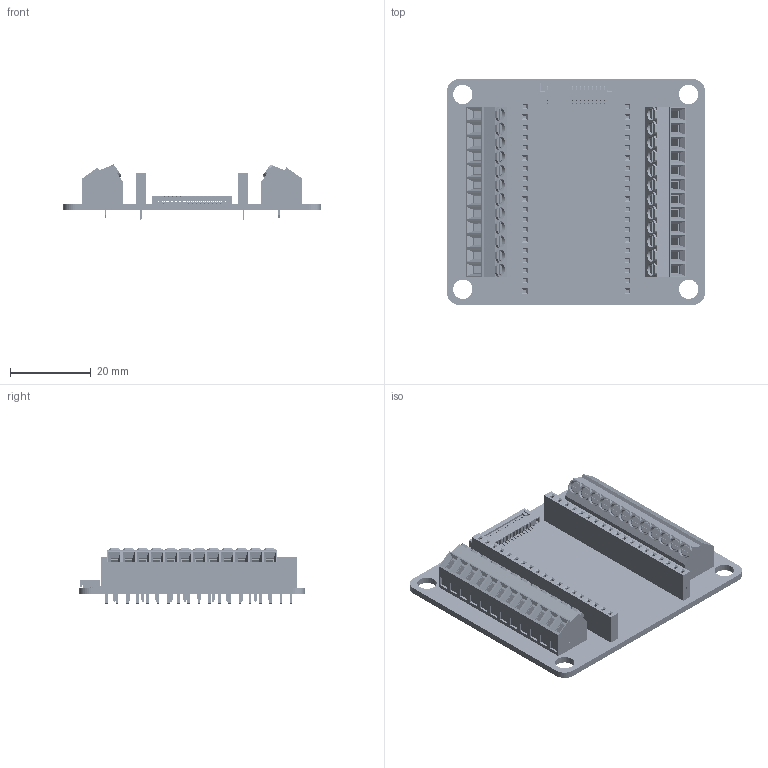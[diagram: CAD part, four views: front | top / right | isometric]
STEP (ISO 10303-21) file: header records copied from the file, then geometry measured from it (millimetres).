
FILE_DESCRIPTION(('Designed by EasyEDA Pro'),'2;1');
FILE_NAME('Open CASCADE Shape Model','2026-09-15T20:38:14',('Author'),( 'Open CASCADE'),'Open CASCADE STEP processor 7.8','Open CASCADE 7.8' ,'Unknown');
FILE_SCHEMA(('AUTOMOTIVE_DESIGN { 1 0 10303 214 1 1 1 1 }'));
Length unit declared in the file: millimetre
Products named in the file (514): EasyEDA PCB Model~jsJH; Board~jsJH; TopCopper~jsJH; BottomCopper~jsJH; TopSilkscreen~jsJH; BottomSilkscreen~jsJH; TopFpcStiffener~jsJH; BottomFpcStiffener~jsJH; U2~HDR-TH_LAIL-PM2.54-19P-L~HDR-TH_19P-P2.54-F-LI-1X19P~jsJH; HDR-TH_LAIL-PM2.54-19P-L~HDR-TH_19P-P2.54-F-LI-1X19P~jsJH; U1~HDR-TH_LAIL-PM2.54-19P-L~HDR-TH_19P-P2.54-F-LI-1X19P~jsJH; U32~FPC-SMD_15P-P1.00_XUNPU_FPC-1.0FX-15PWCR-H20~FPC-SMD_15P-P1.00_
XUNPU_FPC-1.0FX-15PWCR-H20~jsJH; FPC-SMD_15P-P1.00_XUNPU_FPC-1.0FX-15PWCR-H20~FPC-SMD_15P-P1.00_XUNPU_
FPC-1.0FX-15PWCR-H20~jsJH; CN4~CONN-TH_12P-P3.50_JL102-35012G01~CONN-TH_12P-P3.50_
JL102-35012G01~jsJH; CONN-TH_12P-P3.50_JL102-35012G01~CONN-TH_12P-P3.50_JL102-35012G01~jsJH; CN3~CONN-TH_12P-P3.50_JL102-35012G01~CONN-TH_12P-P3.50_
JL102-35012G01~jsJH
Assembly tree (515 placements, depth 3):
  EasyEDA PCB Model~jsJH
    Board~jsJH
    TopCopper~jsJH
    BottomCopper~jsJH
    TopSilkscreen~jsJH
      TopSilkscreen~jsJH
      TopSilkscreen~jsJH
      TopSilkscreen~jsJH
      TopSilkscreen~jsJH
      TopSilkscreen~jsJH
      TopSilkscreen~jsJH
      TopSilkscreen~jsJH
      TopSilkscreen~jsJH
      TopSilkscreen~jsJH
      TopSilkscreen~jsJH
      TopSilkscreen~jsJH
      TopSilkscreen~jsJH
      TopSilkscreen~jsJH
      TopSilkscreen~jsJH
      TopSilkscreen~jsJH
      TopSilkscreen~jsJH
      TopSilkscreen~jsJH
      TopSilkscreen~jsJH
      TopSilkscreen~jsJH
      TopSilkscreen~jsJH
      TopSilkscreen~jsJH
      TopSilkscreen~jsJH
      TopSilkscreen~jsJH
      TopSilkscreen~jsJH
      TopSilkscreen~jsJH
      TopSilkscreen~jsJH
      TopSilkscreen~jsJH
      TopSilkscreen~jsJH
      TopSilkscreen~jsJH
      TopSilkscreen~jsJH
      TopSilkscreen~jsJH
      TopSilkscreen~jsJH
      TopSilkscreen~jsJH
      TopSilkscreen~jsJH
      TopSilkscreen~jsJH
      TopSilkscreen~jsJH
      TopSilkscreen~jsJH
      TopSilkscreen~jsJH
      TopSilkscreen~jsJH
      TopSilkscreen~jsJH
      TopSilkscreen~jsJH
      TopSilkscreen~jsJH
      TopSilkscreen~jsJH
      TopSilkscreen~jsJH
      TopSilkscreen~jsJH
      TopSilkscreen~jsJH
      TopSilkscreen~jsJH
      TopSilkscreen~jsJH
      TopSilkscreen~jsJH
      TopSilkscreen~jsJH
      TopSilkscreen~jsJH
      TopSilkscreen~jsJH
      TopSilkscreen~jsJH
      TopSilkscreen~jsJH
      TopSilkscreen~jsJH
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Bounding box: 63.97 x 55.97 x 13.82 mm (x, y, z)
Volume: 13497.5 mm3; surface area: 21108.6 mm2
Topology: 72 solids, 570 shells, 4521 faces, 45938 edges, 42317 vertices
Faces by surface type: plane 3505, bspline 522, cylinder 422, torus 72
Entity records: 405612 total; most frequent: CARTESIAN_POINT 90868, DIRECTION 48970, ORIENTED_EDGE 48947, EDGE_CURVE 42195, LINE 40512, VECTOR 40512, VERTEX_POINT 39875, AXIS2_PLACEMENT_3D 4229
